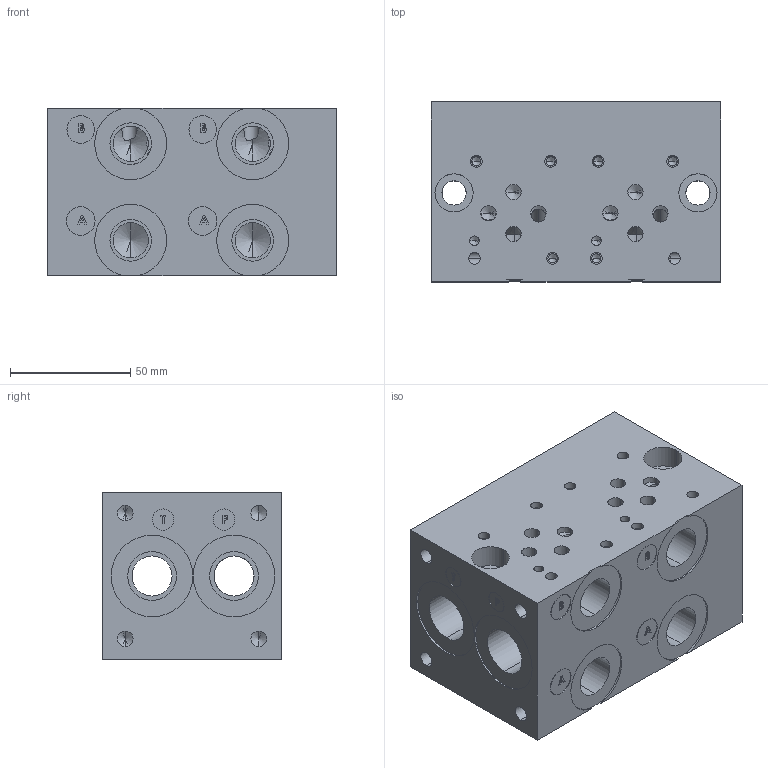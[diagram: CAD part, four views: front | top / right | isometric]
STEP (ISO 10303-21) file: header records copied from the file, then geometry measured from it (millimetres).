
FILE_DESCRIPTION (( 'STEP AP203' ), '1' );
FILE_NAME ('BM-ASP03S2-02-1_Z.STEP', '2015-01-06T15:36:07', ( '' ), ( '' ), 'SwSTEP 2.0', 'SolidWorks 2014', '' );
FILE_SCHEMA (( 'CONFIG_CONTROL_DESIGN' ));
Length unit declared in the file: inch
Products named in the file (1): BM-ASP03S2-02-1_Z
Bounding box: 120.65 x 74.93 x 69.85 mm (x, y, z)
Volume: 520145.9 mm3; surface area: 77165.7 mm2
Topology: 1 solids, 1 shells, 346 faces, 877 edges, 543 vertices
Faces by surface type: cylinder 136, plane 126, cone 54, bspline 30
Entity records: 12492 total; most frequent: CARTESIAN_POINT 4353, ORIENTED_EDGE 1658, DIRECTION 1611, EDGE_CURVE 829, AXIS2_PLACEMENT_3D 579, VERTEX_POINT 543, VECTOR 453, LINE 453
